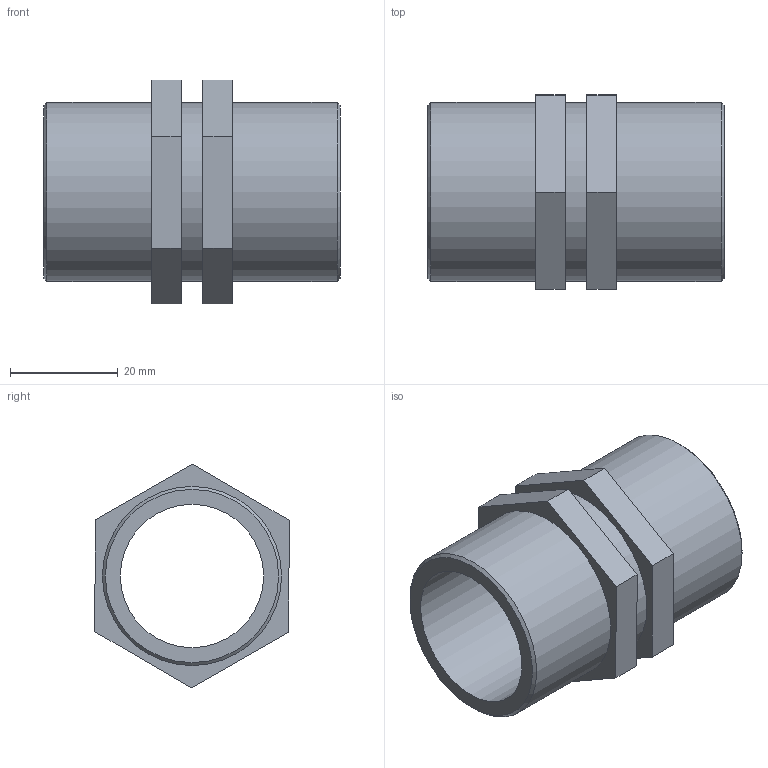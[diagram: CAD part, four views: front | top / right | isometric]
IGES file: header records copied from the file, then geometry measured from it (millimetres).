
Global section: file name: 050607010_0506070100A.ipt; native system: Autodesk Inventor 2015; preprocessor: unknown; author: KIM; date: 20170618.093243; units: millimetre
Bounding box: 55 x 36.06 x 41.57 mm (x, y, z)
Volume: 19955.4 mm3; surface area: 12137.3 mm2
Topology: 1 solids, 1 shells, 24 faces, 54 edges, 36 vertices
Faces by surface type: plane 18, cylinder 3, cone 2, revolution 1
Full cylindrical faces by diameter (mm): 33.249 x3
